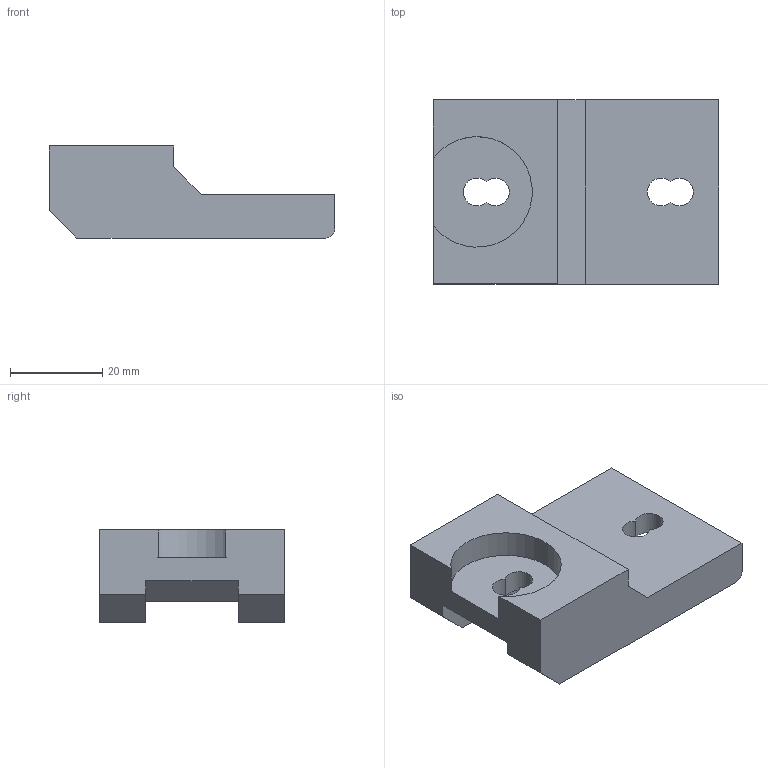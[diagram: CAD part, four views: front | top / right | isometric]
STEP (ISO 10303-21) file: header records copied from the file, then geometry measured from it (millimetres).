
FILE_DESCRIPTION((''),'2;1');
FILE_NAME('CHM_1','2002-12-27T',('Lipro doo'),('Lipro d.o.o.'),'PRO/ENGINEER BY PARAMETRIC TECHNOLOGY CORPORATION, 2001150','PRO/ENGINEER BY PARAMETRIC TECHNOLOGY CORPORATION, 2001150','');
FILE_SCHEMA(('CONFIG_CONTROL_DESIGN'));
Length unit declared in the file: millimetre
Products named in the file (1): CHM_1
Bounding box: 62 x 40 x 20 mm (x, y, z)
Volume: 24097.4 mm3; surface area: 8957 mm2
Topology: 1 solids, 1 shells, 25 faces, 69 edges, 46 vertices
Faces by surface type: plane 18, cylinder 7
Entity records: 843 total; most frequent: CARTESIAN_POINT 140, ORIENTED_EDGE 138, DIRECTION 133, EDGE_CURVE 69, VECTOR 55, LINE 55, VERTEX_POINT 46, AXIS2_PLACEMENT_3D 39
